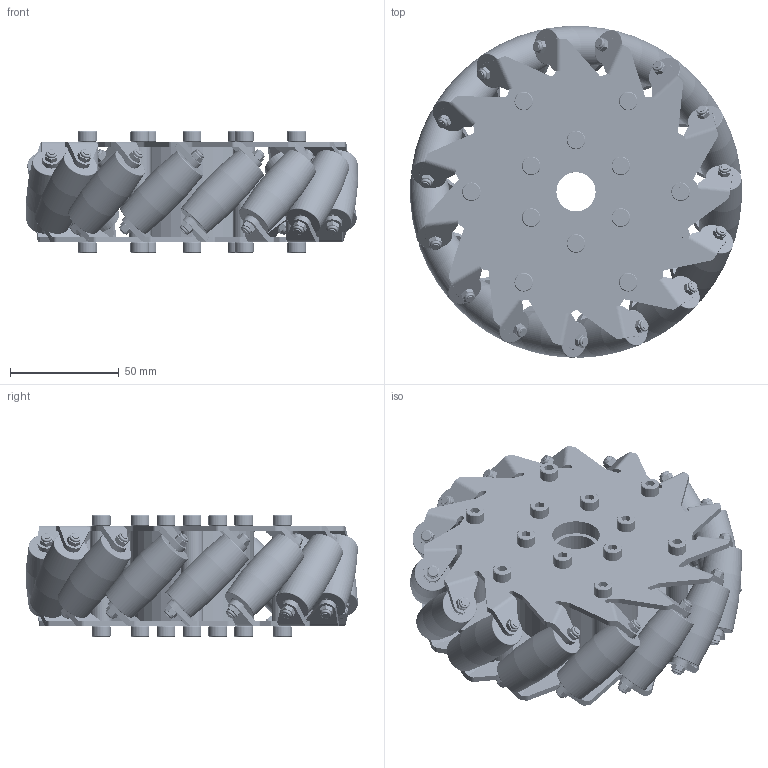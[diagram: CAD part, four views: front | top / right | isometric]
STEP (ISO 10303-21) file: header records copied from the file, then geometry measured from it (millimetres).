
FILE_DESCRIPTION (( 'STEP AP203' ), '1' );
FILE_NAME ('14101.STEP', '2026-09-17T12:40:29', ( '' ), ( '' ), 'SwSTEP 2.0', 'SolidWorks 2024', '' );
FILE_SCHEMA (( 'CONFIG_CONTROL_DESIGN' ));
Length unit declared in the file: millimetre
Products named in the file (13): 6寸45度15分车轮-小轮子组合(A版右).STEP; 深沟球轴承(684ZZ).STEP; 内六角螺丝(M5X12).STEP; 6寸45度15分车轮-铝棒(A版).STEP; 防松螺母M3.STEP; 14101; 6寸45度15分车轮-小轮子固定轴(A版).STEP; 6寸45度15分车轮-轮片组合(A版右).STEP; 6寸45度15分车轮-轮片(A版右).STEP; 平垫Φ3.STEP; 6寸45度15分车轮-小轮子(A版右).STEP; 14101.STEP; 6寸45度15分车轮-中心链接体(A版).STEP
Assembly tree (59 placements, depth 4):
  14101
    14101.STEP
      6寸45度15分车轮-轮片组合(A版右).STEP  x2
        6寸45度15分车轮-轮片(A版右).STEP
        内六角螺丝(M5X12).STEP
        防松螺母M3.STEP
      6寸45度15分车轮-小轮子组合(A版右).STEP  x15
        6寸45度15分车轮-小轮子(A版右).STEP
        深沟球轴承(684ZZ).STEP
        6寸45度15分车轮-小轮子固定轴(A版).STEP
        平垫Φ3.STEP
      6寸45度15分车轮-中心链接体(A版).STEP
      6寸45度15分车轮-铝棒(A版).STEP  x6
Bounding box: 152.27 x 152.27 x 56 mm (x, y, z)
Volume: 319821.1 mm3; surface area: 181021.8 mm2
Topology: 423 solids, 423 shells, 4478 faces, 10512 edges, 6020 vertices
Faces by surface type: cylinder 1288, plane 1102, sphere 960, torus 810, cone 288, bspline 30
Entity records: 18624 total; most frequent: CARTESIAN_POINT 3104, DIRECTION 2911, ORIENTED_EDGE 2530, EDGE_CURVE 1265, AXIS2_PLACEMENT_3D 1143, VERTEX_POINT 788, LINE 625, VECTOR 625
